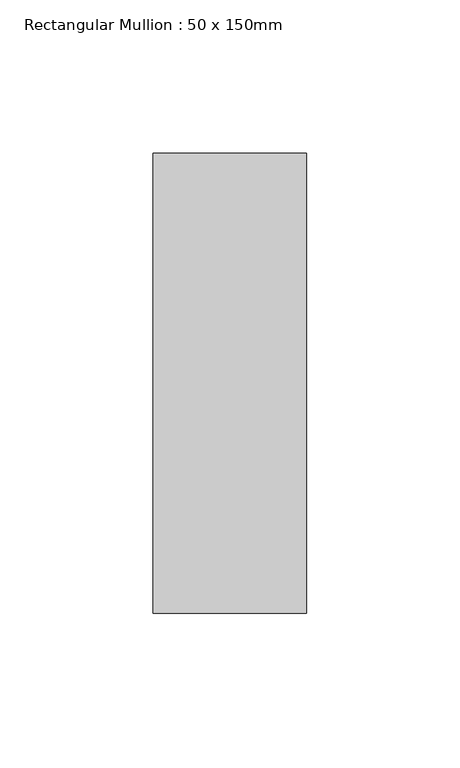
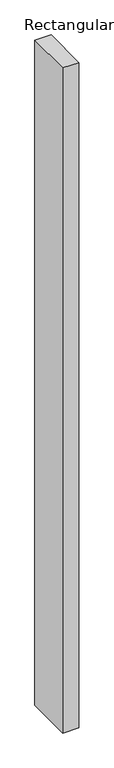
"""IFC4 building model written with IfcOpenShell, lengths in millimetres: member geometry, Rectangular Mullion : 50 x 150mm."""

from ifc_helpers import new_model, si_unit, frame, origin, place, context, project, spatial, polyline, outline, extrude, source, transform, mapped, element, save


def rectangular_mullion_50_x_150mm_6117d25b(model_context):
    return source(origin(), model_context, "Body", "SweptSolid", [
        extrude(outline(polyline([(0.0, 25.0), (0.0, -125.0), (-50.0, -125.0), (-50.0, 25.0), (0.0, 25.0)])), frame((0.0, 0.0, -2184.1033932), z_axis=(0.0, 0.0, 1.0), x_axis=(1.0, 0.0, 0.0)), (0.0, 0.0, 1.0), 2184.1033932),
    ])


if __name__ == "__main__":
    model = new_model("IFC4")
    model_context = context("Model", 3, world=origin())
    ifc_project = project(units=[si_unit("LENGTHUNIT", "METRE", prefix="MILLI")], contexts=[model_context])
    site = spatial("IfcSite", under=ifc_project)
    building = spatial("IfcBuilding", under=site)
    placement = place(None, origin())
    rectangular_mullion_50_x_150mm_shape = rectangular_mullion_50_x_150mm_6117d25b(model_context)
    element("IfcMember", 1, ObjectType="Rectangular Mullion : 50 x 150mm", at=placement, inside=building, context=model_context, shape_type="MappedRepresentation", body=[
        mapped(rectangular_mullion_50_x_150mm_shape, transform((0.0, 0.0, 0.0), x_axis=(1.0, 0.0, 0.0), y_axis=(0.0, 1.0, 0.0), z_axis=(0.0, 0.0, 1.0))),
    ])
    save(model, "model.ifc")
